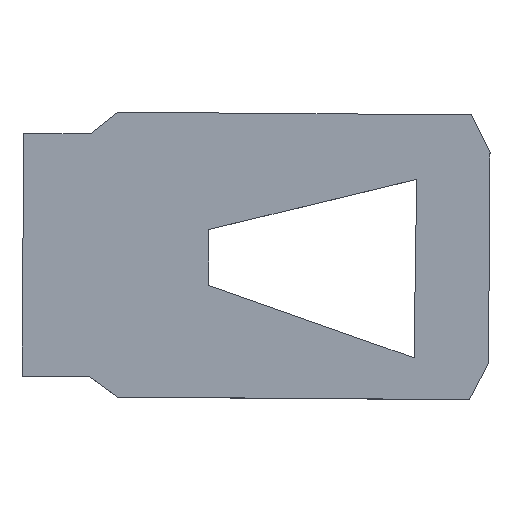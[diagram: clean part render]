
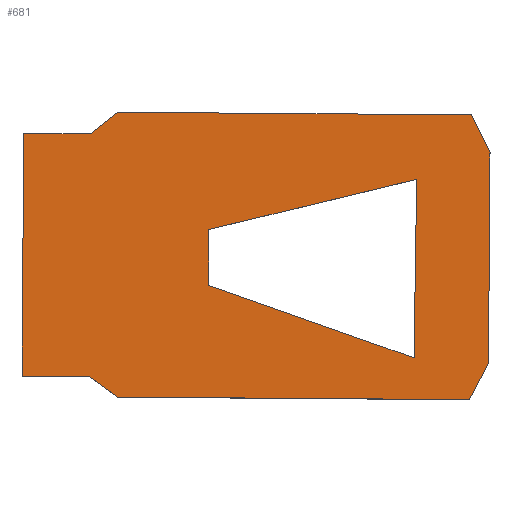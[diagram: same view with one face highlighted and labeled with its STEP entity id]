
A CAD part, top view. The second image highlights one B-rep face of the part: STEP entity #681.
In plain terms, the highlighted planar face has unit normal (0, 0, 1).
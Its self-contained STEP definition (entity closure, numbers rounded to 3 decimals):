
#16=FACE_BOUND('',#69,.T.);
#33=FACE_OUTER_BOUND('',#68,.T.);
#68=EDGE_LOOP('',(#545,#546,#547,#548,#549,#550,#551,#552,#553,#554));
#69=EDGE_LOOP('',(#555,#556,#557,#558));
#124=LINE('',#985,#220);
#126=LINE('',#990,#222);
#130=LINE('',#998,#226);
#133=LINE('',#1004,#229);
#136=LINE('',#1009,#232);
#150=LINE('',#1036,#246);
#161=LINE('',#1058,#257);
#162=LINE('',#1060,#258);
#163=LINE('',#1062,#259);
#164=LINE('',#1063,#260);
#165=LINE('',#1065,#261);
#166=LINE('',#1067,#262);
#167=LINE('',#1069,#263);
#168=LINE('',#1070,#264);
#220=VECTOR('',#792,10.);
#222=VECTOR('',#796,10.);
#226=VECTOR('',#802,10.);
#229=VECTOR('',#807,10.);
#232=VECTOR('',#812,10.);
#246=VECTOR('',#836,10.);
#257=VECTOR('',#851,10.);
#258=VECTOR('',#852,10.);
#259=VECTOR('',#853,10.);
#260=VECTOR('',#854,10.);
#261=VECTOR('',#855,10.);
#262=VECTOR('',#856,10.);
#263=VECTOR('',#857,10.);
#264=VECTOR('',#858,10.);
#311=VERTEX_POINT('',#982);
#312=VERTEX_POINT('',#984);
#313=VERTEX_POINT('',#988);
#314=VERTEX_POINT('',#989);
#317=VERTEX_POINT('',#997);
#319=VERTEX_POINT('',#1003);
#327=VERTEX_POINT('',#1033);
#328=VERTEX_POINT('',#1035);
#337=VERTEX_POINT('',#1057);
#338=VERTEX_POINT('',#1059);
#339=VERTEX_POINT('',#1061);
#340=VERTEX_POINT('',#1064);
#341=VERTEX_POINT('',#1066);
#342=VERTEX_POINT('',#1068);
#380=EDGE_CURVE('',#312,#311,#124,.T.);
#382=EDGE_CURVE('',#313,#314,#126,.T.);
#386=EDGE_CURVE('',#314,#317,#130,.T.);
#389=EDGE_CURVE('',#317,#319,#133,.T.);
#392=EDGE_CURVE('',#319,#313,#136,.T.);
#406=EDGE_CURVE('',#328,#327,#150,.T.);
#417=EDGE_CURVE('',#311,#337,#161,.T.);
#418=EDGE_CURVE('',#337,#338,#162,.T.);
#419=EDGE_CURVE('',#338,#339,#163,.T.);
#420=EDGE_CURVE('',#339,#328,#164,.T.);
#421=EDGE_CURVE('',#327,#340,#165,.T.);
#422=EDGE_CURVE('',#340,#341,#166,.T.);
#423=EDGE_CURVE('',#341,#342,#167,.T.);
#424=EDGE_CURVE('',#342,#312,#168,.T.);
#545=ORIENTED_EDGE('',*,*,#417,.T.);
#546=ORIENTED_EDGE('',*,*,#418,.T.);
#547=ORIENTED_EDGE('',*,*,#419,.T.);
#548=ORIENTED_EDGE('',*,*,#420,.T.);
#549=ORIENTED_EDGE('',*,*,#406,.T.);
#550=ORIENTED_EDGE('',*,*,#421,.T.);
#551=ORIENTED_EDGE('',*,*,#422,.T.);
#552=ORIENTED_EDGE('',*,*,#423,.T.);
#553=ORIENTED_EDGE('',*,*,#424,.T.);
#554=ORIENTED_EDGE('',*,*,#380,.T.);
#555=ORIENTED_EDGE('',*,*,#389,.T.);
#556=ORIENTED_EDGE('',*,*,#392,.T.);
#557=ORIENTED_EDGE('',*,*,#382,.T.);
#558=ORIENTED_EDGE('',*,*,#386,.T.);
#647=PLANE('',#723);
#681=ADVANCED_FACE('',(#33,#16),#647,.T.);
#723=AXIS2_PLACEMENT_3D('',#1056,#849,#850);
#792=DIRECTION('',(0.007,1.,0.));
#796=DIRECTION('',(0.972,0.235,0.));
#802=DIRECTION('',(-0.015,-1.,0.));
#807=DIRECTION('',(-0.943,0.333,0.));
#812=DIRECTION('',(0.,1.,0.));
#836=DIRECTION('',(-0.007,-1.,0.));
#849=DIRECTION('center_axis',(0.,0.,1.));
#850=DIRECTION('ref_axis',(1.,0.,0.));
#851=DIRECTION('',(-0.439,0.898,0.));
#852=DIRECTION('',(-1.,0.007,0.));
#853=DIRECTION('',(-0.784,-0.621,0.));
#854=DIRECTION('',(-1.,0.007,0.));
#855=DIRECTION('',(1.,-0.007,0.));
#856=DIRECTION('',(0.807,-0.59,0.));
#857=DIRECTION('',(1.,-0.007,0.));
#858=DIRECTION('',(0.467,0.884,0.));
#982=CARTESIAN_POINT('',(43.364,-22.911,16.216));
#984=CARTESIAN_POINT('',(43.219,-42.869,16.216));
#985=CARTESIAN_POINT('',(43.219,-42.869,16.216));
#988=CARTESIAN_POINT('',(16.697,-30.168,16.216));
#989=CARTESIAN_POINT('',(36.412,-25.411,16.216));
#990=CARTESIAN_POINT('',(28.409,-27.342,16.216));
#997=CARTESIAN_POINT('',(36.162,-42.334,16.216));
#998=CARTESIAN_POINT('',(36.232,-37.607,16.216));
#1003=CARTESIAN_POINT('',(16.697,-35.457,16.216));
#1004=CARTESIAN_POINT('',(18.268,-36.012,16.216));
#1009=CARTESIAN_POINT('',(16.697,-31.412,16.216));
#1033=CARTESIAN_POINT('',(-1.003,-44.059,16.216));
#1035=CARTESIAN_POINT('',(-0.836,-21.06,16.216));
#1036=CARTESIAN_POINT('',(-0.836,-21.06,16.216));
#1056=CARTESIAN_POINT('Origin',(21.222,-32.657,16.216));
#1057=CARTESIAN_POINT('',(41.595,-19.293,16.216));
#1058=CARTESIAN_POINT('',(43.364,-22.911,16.216));
#1059=CARTESIAN_POINT('',(8.056,-19.049,16.216));
#1060=CARTESIAN_POINT('',(41.595,-19.293,16.216));
#1061=CARTESIAN_POINT('',(5.46,-21.105,16.216));
#1062=CARTESIAN_POINT('',(8.056,-19.049,16.216));
#1063=CARTESIAN_POINT('',(5.46,-21.105,16.216));
#1064=CARTESIAN_POINT('',(5.352,-44.105,16.216));
#1065=CARTESIAN_POINT('',(-1.003,-44.059,16.216));
#1066=CARTESIAN_POINT('',(8.013,-46.05,16.216));
#1067=CARTESIAN_POINT('',(5.352,-44.105,16.216));
#1068=CARTESIAN_POINT('',(41.408,-46.292,16.216));
#1069=CARTESIAN_POINT('',(8.013,-46.05,16.216));
#1070=CARTESIAN_POINT('',(41.408,-46.292,16.216));
